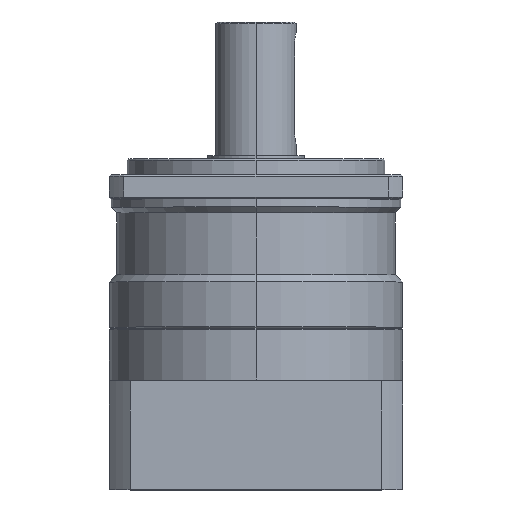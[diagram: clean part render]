
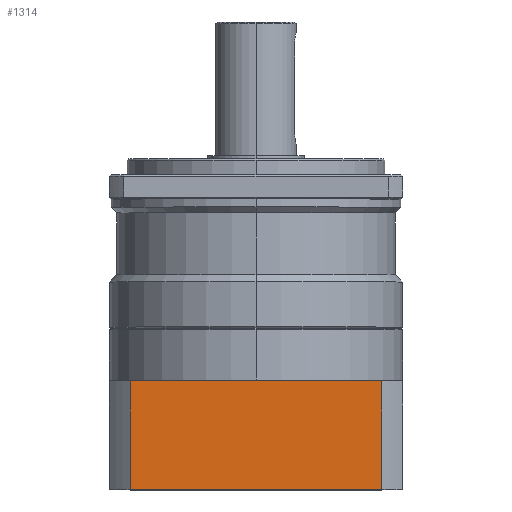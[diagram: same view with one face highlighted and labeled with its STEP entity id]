
A CAD part, top view. The second image highlights one B-rep face of the part: STEP entity #1314.
In plain terms, the highlighted planar face has unit normal (0, 0, 1).
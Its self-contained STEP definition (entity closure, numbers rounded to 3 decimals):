
#27 = CARTESIAN_POINT ( 'NONE',  ( -78.224, 0., 91. ) ) ;
#31 = CARTESIAN_POINT ( 'NONE',  ( 78.224, 0., 91. ) ) ;
#32 = DIRECTION ( 'NONE',  ( 0., -1., 0. ) ) ;
#33 = CARTESIAN_POINT ( 'NONE',  ( 91., -32.5, 91. ) ) ;
#34 = DIRECTION ( 'NONE',  ( -1., 0., 0. ) ) ;
#35 = DIRECTION ( 'NONE',  ( 0., 1., 0. ) ) ;
#36 = CARTESIAN_POINT ( 'NONE',  ( 91., -100., 91. ) ) ;
#37 = DIRECTION ( 'NONE',  ( -1., 0., 0. ) ) ;
#253 = ORIENTED_EDGE ( 'NONE', *, *, #590, .T. ) ;
#257 = ORIENTED_EDGE ( 'NONE', *, *, #589, .F. ) ;
#332 = ORIENTED_EDGE ( 'NONE', *, *, #592, .F. ) ;
#350 = ORIENTED_EDGE ( 'NONE', *, *, #591, .F. ) ;
#589 = EDGE_CURVE ( 'NONE', #4054, #3892, #4480, .T. ) ;
#590 = EDGE_CURVE ( 'NONE', #4054, #4076, #4482, .T. ) ;
#591 = EDGE_CURVE ( 'NONE', #3990, #4076, #4478, .T. ) ;
#592 = EDGE_CURVE ( 'NONE', #3892, #3990, #4486, .T. ) ;
#1314 = ADVANCED_FACE ( 'NONE', ( #4701 ), #1571, .F. ) ;
#1562 = CARTESIAN_POINT ( 'NONE',  ( 91., -100., 91. ) ) ;
#1571 = PLANE ( 'NONE',  #2850 ) ;
#1573 = DIRECTION ( 'NONE',  ( 0., 0., -1. ) ) ;
#1574 = DIRECTION ( 'NONE',  ( -1., 0., 0. ) ) ;
#2163 = CARTESIAN_POINT ( 'NONE',  ( 78.224, -100., 91. ) ) ;
#2275 = CARTESIAN_POINT ( 'NONE',  ( -78.224, -100., 91. ) ) ;
#2339 = CARTESIAN_POINT ( 'NONE',  ( 78.224, -32.5, 91. ) ) ;
#2361 = CARTESIAN_POINT ( 'NONE',  ( -78.224, -32.5, 91. ) ) ;
#2850 = AXIS2_PLACEMENT_3D ( 'NONE', #1562, #1573, #1574 ) ;
#3639 = EDGE_LOOP ( 'NONE', ( #257, #253, #350, #332 ) ) ;
#3892 = VERTEX_POINT ( 'NONE', #2163 ) ;
#3990 = VERTEX_POINT ( 'NONE', #2275 ) ;
#4054 = VERTEX_POINT ( 'NONE', #2339 ) ;
#4076 = VERTEX_POINT ( 'NONE', #2361 ) ;
#4478 = LINE ( 'NONE', #27, #4487 ) ;
#4480 = LINE ( 'NONE', #31, #4483 ) ;
#4482 = LINE ( 'NONE', #33, #4485 ) ;
#4483 = VECTOR ( 'NONE', #32, 1000. ) ;
#4485 = VECTOR ( 'NONE', #34, 1000. ) ;
#4486 = LINE ( 'NONE', #36, #4489 ) ;
#4487 = VECTOR ( 'NONE', #35, 1000. ) ;
#4489 = VECTOR ( 'NONE', #37, 1000. ) ;
#4701 = FACE_OUTER_BOUND ( 'NONE', #3639, .T. ) ;
